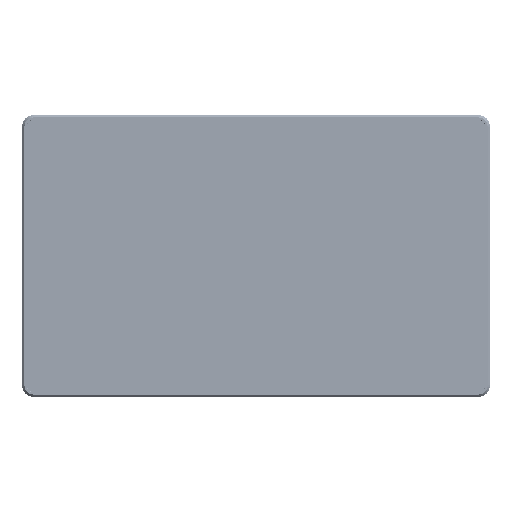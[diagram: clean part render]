
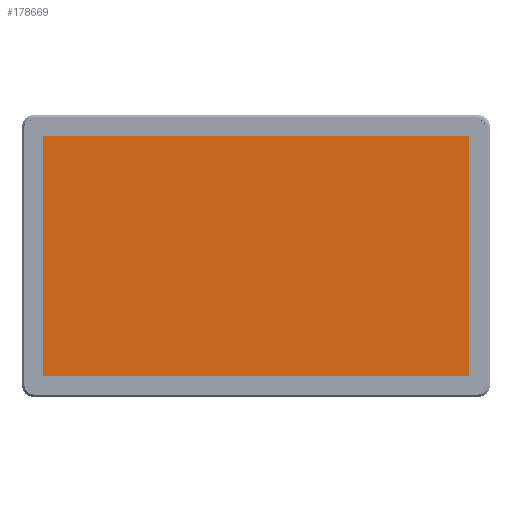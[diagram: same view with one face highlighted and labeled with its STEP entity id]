
A CAD part, top view. The second image highlights one B-rep face of the part: STEP entity #178669.
In plain terms, the highlighted planar face has unit normal (0, 0, 1).
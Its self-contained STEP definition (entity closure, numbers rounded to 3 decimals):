
#16174=PLANE('',#189140);
#22372=FACE_OUTER_BOUND('',#31859,.T.);
#31859=EDGE_LOOP('',(#130749,#130750,#130751,#130752));
#42290=LINE('',#259484,#60320);
#42294=LINE('',#259492,#60324);
#42297=LINE('',#259498,#60327);
#42300=LINE('',#259503,#60330);
#60320=VECTOR('',#205869,10.);
#60324=VECTOR('',#205875,10.);
#60327=VECTOR('',#205880,10.);
#60330=VECTOR('',#205885,10.);
#83796=VERTEX_POINT('',#259482);
#83797=VERTEX_POINT('',#259483);
#83800=VERTEX_POINT('',#259491);
#83802=VERTEX_POINT('',#259497);
#102134=EDGE_CURVE('',#83796,#83797,#42290,.T.);
#102138=EDGE_CURVE('',#83797,#83800,#42294,.T.);
#102141=EDGE_CURVE('',#83800,#83802,#42297,.T.);
#102144=EDGE_CURVE('',#83802,#83796,#42300,.T.);
#130749=ORIENTED_EDGE('',*,*,#102134,.T.);
#130750=ORIENTED_EDGE('',*,*,#102138,.T.);
#130751=ORIENTED_EDGE('',*,*,#102141,.T.);
#130752=ORIENTED_EDGE('',*,*,#102144,.T.);
#178669=ADVANCED_FACE('',(#22372),#16174,.T.);
#189140=AXIS2_PLACEMENT_3D('',#259505,#205887,#205888);
#205869=DIRECTION('',(0.,-1.,0.));
#205875=DIRECTION('',(1.,0.,0.));
#205880=DIRECTION('',(0.,1.,0.));
#205885=DIRECTION('',(-1.,0.,0.));
#205887=DIRECTION('center_axis',(0.,0.,
1.));
#205888=DIRECTION('ref_axis',(1.,0.,0.));
#259482=CARTESIAN_POINT('',(-265.68,149.445,1.99));
#259483=CARTESIAN_POINT('',(-265.68,-149.445,1.99));
#259484=CARTESIAN_POINT('',(-265.68,-143.895,1.99));
#259491=CARTESIAN_POINT('',(265.68,-149.445,1.99));
#259492=CARTESIAN_POINT('',(245.68,-149.445,1.99));
#259497=CARTESIAN_POINT('',(265.68,149.445,1.99));
#259498=CARTESIAN_POINT('',(265.68,154.995,1.99));
#259503=CARTESIAN_POINT('',(-285.68,149.445,1.99));
#259505=CARTESIAN_POINT('Origin',(-20.,5.55,1.99));
